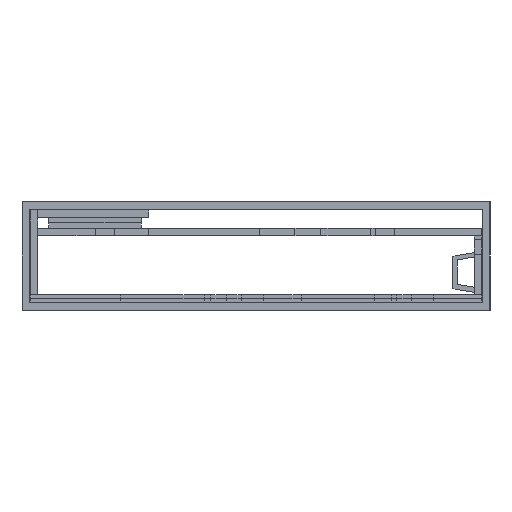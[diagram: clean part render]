
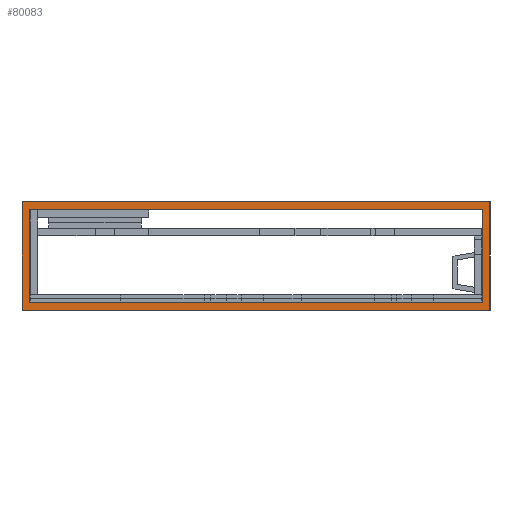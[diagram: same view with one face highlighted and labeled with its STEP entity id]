
A CAD part, left-side view. The second image highlights one B-rep face of the part: STEP entity #80083.
In plain terms, the highlighted planar face has unit normal (-1, 0, 0).
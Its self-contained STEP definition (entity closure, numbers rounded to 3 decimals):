
#80024=DIRECTION('',(0.0,1.0,0.0));
#80025=VECTOR('',#80024,126.4);
#80026=CARTESIAN_POINT('',(-382.5,-66.2,27.1));
#80027=LINE('',#80026,#80025);
#80028=VERTEX_POINT('',#80026);
#80029=CARTESIAN_POINT('',(-382.5,60.2,27.1));
#80030=VERTEX_POINT('',#80029);
#80031=EDGE_CURVE('',#80028,#80030,#80027,.T.);
#80032=ORIENTED_EDGE('',*,*,#80031,.T.);
#80033=DIRECTION('',(0.0,0.0,-1.0));
#80034=VECTOR('',#80033,29.3);
#80035=LINE('',#80029,#80034);
#80036=CARTESIAN_POINT('',(-382.5,60.2,-2.2));
#80037=VERTEX_POINT('',#80036);
#80038=EDGE_CURVE('',#80030,#80037,#80035,.T.);
#80039=ORIENTED_EDGE('',*,*,#80038,.T.);
#80040=DIRECTION('',(0.0,-1.0,0.0));
#80041=VECTOR('',#80040,126.4);
#80042=LINE('',#80036,#80041);
#80043=CARTESIAN_POINT('',(-382.5,-66.2,-2.2));
#80044=VERTEX_POINT('',#80043);
#80045=EDGE_CURVE('',#80037,#80044,#80042,.T.);
#80046=ORIENTED_EDGE('',*,*,#80045,.T.);
#80047=VECTOR('',#80033,29.3);
#80048=LINE('',#80026,#80047);
#80049=EDGE_CURVE('',#80028,#80044,#80048,.T.);
#80050=ORIENTED_EDGE('',*,*,#80049,.F.);
#80051=EDGE_LOOP('',(#80032,#80039,#80046,#80050));
#80052=FACE_OUTER_BOUND('',#80051,.T.);
#80053=VECTOR('',#80024,122.4);
#80054=CARTESIAN_POINT('',(-382.5,-64.2,-0.2));
#80055=LINE('',#80054,#80053);
#80056=VERTEX_POINT('',#80054);
#80057=CARTESIAN_POINT('',(-382.5,58.2,-0.2));
#80058=VERTEX_POINT('',#80057);
#80059=EDGE_CURVE('',#80056,#80058,#80055,.T.);
#80060=ORIENTED_EDGE('',*,*,#80059,.T.);
#80061=DIRECTION('',(0.0,0.0,1.0));
#80062=VECTOR('',#80061,25.3);
#80063=LINE('',#80057,#80062);
#80064=CARTESIAN_POINT('',(-382.5,58.2,25.1));
#80065=VERTEX_POINT('',#80064);
#80066=EDGE_CURVE('',#80058,#80065,#80063,.T.);
#80067=ORIENTED_EDGE('',*,*,#80066,.T.);
#80068=VECTOR('',#80040,122.4);
#80069=LINE('',#80064,#80068);
#80070=CARTESIAN_POINT('',(-382.5,-64.2,25.1));
#80071=VERTEX_POINT('',#80070);
#80072=EDGE_CURVE('',#80065,#80071,#80069,.T.);
#80073=ORIENTED_EDGE('',*,*,#80072,.T.);
#80074=VECTOR('',#80061,25.3);
#80075=LINE('',#80054,#80074);
#80076=EDGE_CURVE('',#80056,#80071,#80075,.T.);
#80077=ORIENTED_EDGE('',*,*,#80076,.F.);
#80078=EDGE_LOOP('',(#80060,#80067,#80073,#80077));
#80079=FACE_BOUND('',#80078,.T.);
#80080=DIRECTION('',(-1.0,0.0,0.0));
#80081=AXIS2_PLACEMENT_3D('',#80026,#80080,#80024);
#80082=PLANE('',#80081);
#80083=ADVANCED_FACE('',(#80052,#80079),#80082,.T.);
